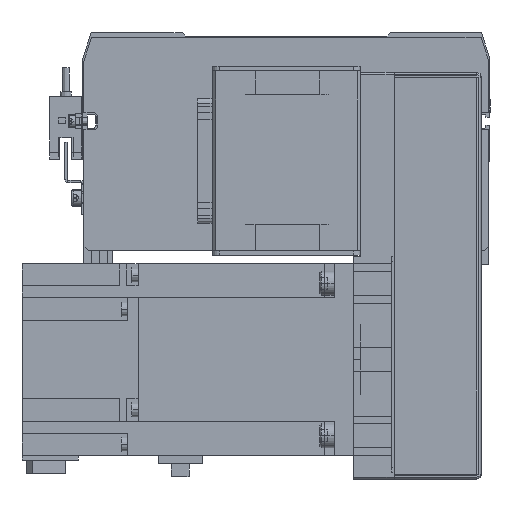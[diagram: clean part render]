
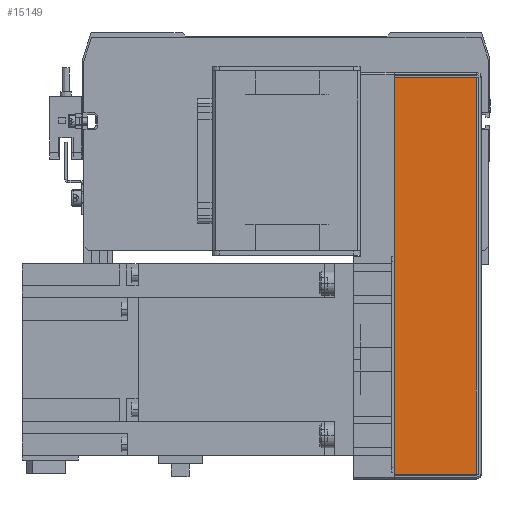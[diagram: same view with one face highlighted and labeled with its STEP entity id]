
A CAD part, front view. The second image highlights one B-rep face of the part: STEP entity #15149.
In plain terms, the highlighted planar face has unit normal (0, -1, 0).
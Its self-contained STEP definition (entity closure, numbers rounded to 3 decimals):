
#622 = CARTESIAN_POINT ( 'NONE',  ( 14.931, -45.778, 177. ) ) ;
#2334 = VECTOR ( 'NONE', #23080, 1000. ) ;
#3833 = CARTESIAN_POINT ( 'NONE',  ( 97.724, -45.778, 212. ) ) ;
#4178 = EDGE_CURVE ( 'NONE', #32788, #24787, #27268, .T. ) ;
#4373 = CARTESIAN_POINT ( 'NONE',  ( -67.862, -45.778, 177. ) ) ;
#4812 = VECTOR ( 'NONE', #24553, 1000. ) ;
#6498 = DIRECTION ( 'NONE',  ( 0., 1., 0. ) ) ;
#7280 = LINE ( 'NONE', #3833, #16396 ) ;
#9375 = CARTESIAN_POINT ( 'NONE',  ( 14.931, -45.778, 213.5 ) ) ;
#10439 = EDGE_LOOP ( 'NONE', ( #15753, #43844, #12552, #23995 ) ) ;
#12552 = ORIENTED_EDGE ( 'NONE', *, *, #24196, .T. ) ;
#13394 = DIRECTION ( 'NONE',  ( 0., 0., 1. ) ) ;
#15149 = ADVANCED_FACE ( 'NONE', ( #42576 ), #19963, .F. ) ;
#15750 = EDGE_CURVE ( 'NONE', #24579, #24787, #7280, .T. ) ;
#15753 = ORIENTED_EDGE ( 'NONE', *, *, #15750, .F. ) ;
#16396 = VECTOR ( 'NONE', #27100, 1000. ) ;
#17749 = VECTOR ( 'NONE', #25060, 1000. ) ;
#19963 = PLANE ( 'NONE',  #37574 ) ;
#20269 = CARTESIAN_POINT ( 'NONE',  ( 97.724, -45.778, 211.263 ) ) ;
#20805 = CARTESIAN_POINT ( 'NONE',  ( 99.931, -45.778, 211.263 ) ) ;
#23080 = DIRECTION ( 'NONE',  ( 0., 0., -1. ) ) ;
#23995 = ORIENTED_EDGE ( 'NONE', *, *, #4178, .T. ) ;
#24196 = EDGE_CURVE ( 'NONE', #43972, #32788, #26816, .T. ) ;
#24553 = DIRECTION ( 'NONE',  ( 1., 0., 0. ) ) ;
#24579 = VERTEX_POINT ( 'NONE', #20269 ) ;
#24787 = VERTEX_POINT ( 'NONE', #32285 ) ;
#25060 = DIRECTION ( 'NONE',  ( 1., 0., 0. ) ) ;
#26816 = LINE ( 'NONE', #36924, #2334 ) ;
#27100 = DIRECTION ( 'NONE',  ( 0., 0., -1. ) ) ;
#27268 = LINE ( 'NONE', #622, #4812 ) ;
#32285 = CARTESIAN_POINT ( 'NONE',  ( 97.724, -45.778, 177. ) ) ;
#32788 = VERTEX_POINT ( 'NONE', #4373 ) ;
#32853 = EDGE_CURVE ( 'NONE', #43972, #24579, #37981, .T. ) ;
#35988 = CARTESIAN_POINT ( 'NONE',  ( -67.862, -45.778, 211.263 ) ) ;
#36924 = CARTESIAN_POINT ( 'NONE',  ( -67.862, -45.778, 213.5 ) ) ;
#37574 = AXIS2_PLACEMENT_3D ( 'NONE', #9375, #6498, #13394 ) ;
#37981 = LINE ( 'NONE', #20805, #17749 ) ;
#42576 = FACE_OUTER_BOUND ( 'NONE', #10439, .T. ) ;
#43844 = ORIENTED_EDGE ( 'NONE', *, *, #32853, .F. ) ;
#43972 = VERTEX_POINT ( 'NONE', #35988 ) ;
